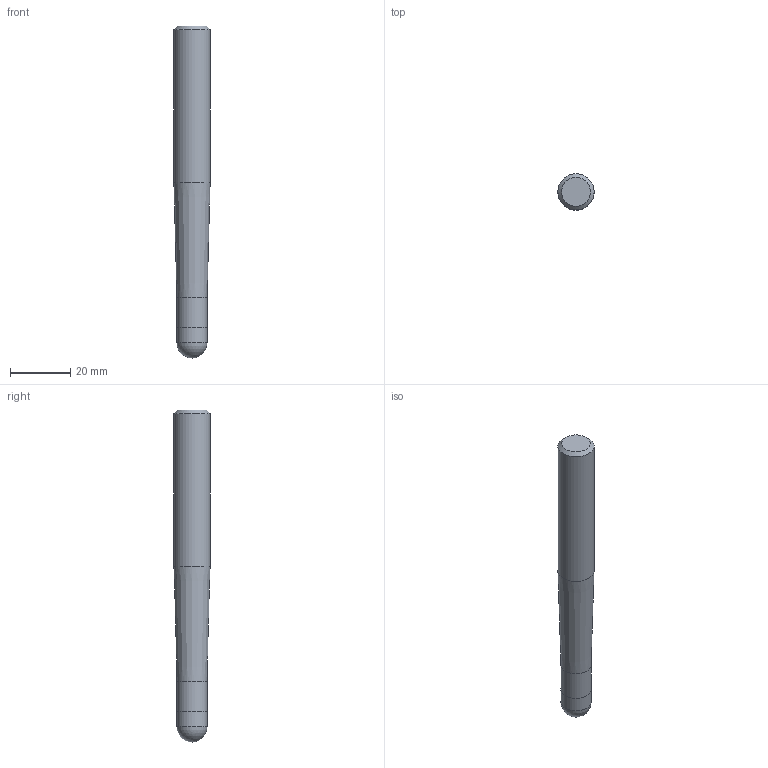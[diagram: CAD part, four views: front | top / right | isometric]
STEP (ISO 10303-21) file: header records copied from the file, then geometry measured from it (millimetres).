
FILE_DESCRIPTION((''),'2;1');
FILE_NAME('C:\Users\nsx150\AppData\Local\Temp\Mastercam 2021\SNAKH10GOD\TEMP.step','2021-10-21T13:34:10',(''),(''),'STEP Write','Mastercam 2021 ... CNC Software, Inc.','');
FILE_SCHEMA(('AUTOMOTIVE_DESIGN'));
Length unit declared in the file: millimetre
Products named in the file (1): None
Bounding box: 12 x 12 x 110 mm (x, y, z)
Volume: 10903.7 mm3; surface area: 4141.4 mm2
Topology: 2 solids, 2 shells, 9 faces, 14 edges, 8 vertices
Faces by surface type: plane 3, cylinder 3, cone 2, sphere 1
Full cylindrical faces by diameter (mm): 9.98 x1, 10 x1, 12 x1
Entity records: 211 total; most frequent: DIRECTION 36, CARTESIAN_POINT 25, AXIS2_PLACEMENT_3D 18, ORIENTED_EDGE 14, EDGE_LOOP 14, STYLED_ITEM 12, ADVANCED_FACE 9, FACE_BOUND 8
